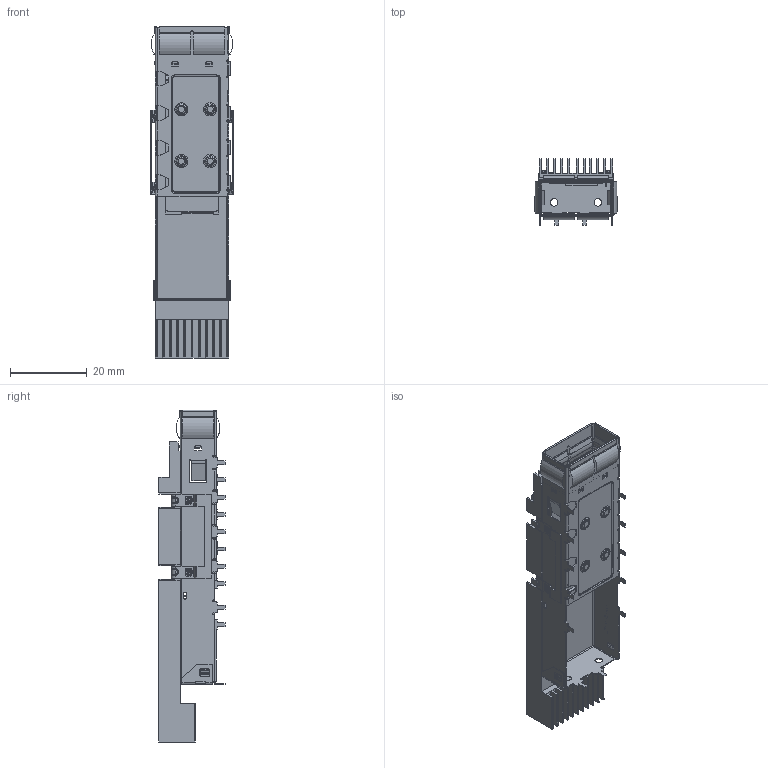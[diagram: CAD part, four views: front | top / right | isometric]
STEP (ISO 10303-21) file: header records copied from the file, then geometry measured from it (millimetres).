
FILE_DESCRIPTION((''),'2;1');
FILE_NAME('1X1CAGE_ASM','2020-03-13T',('C080069'),(''),'PRO/ENGINEER BY PARAMETRIC TECHNOLOGY CORPORATION, 2010280','PRO/ENGINEER BY PARAMETRIC TECHNOLOGY CORPORATION, 2010280','');
FILE_SCHEMA(('AUTOMOTIVE_DESIGN { 1 0 10303 214 1 1 1 1 }'));
Products named in the file (1): 1X1CAGE_ASM
Bounding box: 21.4 x 17.25 x 86.57 mm (x, y, z)
Surface area: 18510.8 mm2 (no closed solid volume)
Topology: 0 solids, 7 shells, 2672 faces, 6867 edges, 4124 vertices
Faces by surface type: plane 1553, cylinder 829, torus 144, bspline 96, sphere 32, cone 16, extrusion 2
Entity records: 102866 total; most frequent: CARTESIAN_POINT 18014, DIRECTION 13462, ORIENTED_EDGE 13438, EDGE_CURVE 6867, PRESENTATION_STYLE_ASSIGNMENT 5750, STYLED_ITEM 5750, CURVE_STYLE 5035, VECTOR 4680
